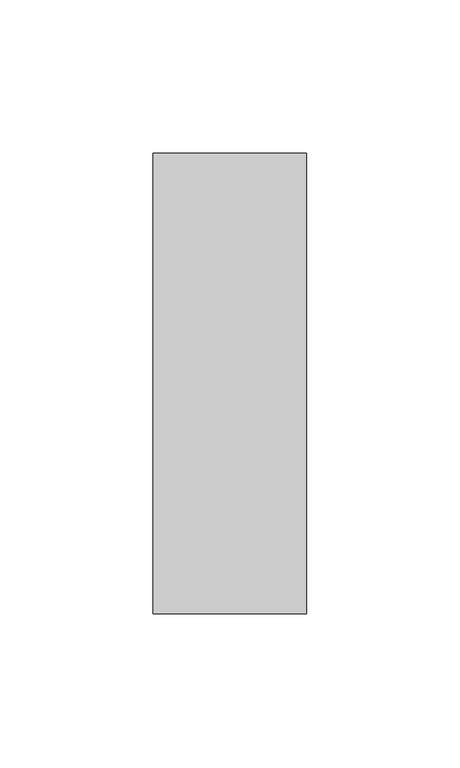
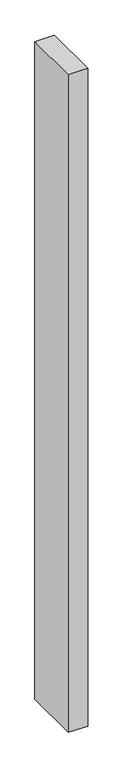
"""IFC4 building model written with IfcOpenShell, lengths in millimetres: member geometry, Прямоугольный импост : 50 x 150 мм."""

from ifc_helpers import new_model, si_unit, origin, place, context, project, spatial, faceted_brep, source, transform, mapped, element, save


def member_d0ff529a(model_context):
    return source(origin(), model_context, "Body", "Brep", [
        faceted_brep([(-25.0, 75.0, -0.711328), (25.0, 75.0, 0.4127306), (25.0, 75.0, -1803.8673585), (-25.0, 75.0, -1802.721367), (-25.0, -75.0, -0.4127306), (-25.0, -75.0, -1801.5103132), (25.0, -75.0, 0.711328), (25.0, -75.0, -1802.6563047)], [[[0, 1, 2, 3]], [[4, 0, 3, 5]], [[6, 4, 5, 7]], [[1, 6, 7, 2]], [[1, 0, 4, 6]], [[2, 7, 5, 3]]]),
    ])


if __name__ == "__main__":
    model = new_model("IFC4")
    model_context = context("Model", 3, world=origin())
    ifc_project = project(units=[si_unit("LENGTHUNIT", "METRE", prefix="MILLI")], contexts=[model_context])
    site = spatial("IfcSite", under=ifc_project)
    building = spatial("IfcBuilding", under=site)
    placement = place(None, origin())
    member_shape = member_d0ff529a(model_context)
    element("IfcMember", 1, ObjectType="Прямоугольный импост : 50 x 150 мм", at=placement, inside=building, context=model_context, shape_type="MappedRepresentation", body=[
        mapped(member_shape, transform((0.0, 0.0, 0.0), x_axis=(1.0, 0.0, 0.0), y_axis=(0.0, 1.0, 0.0), z_axis=(0.0, 0.0, 1.0))),
    ])
    save(model, "model.ifc")
